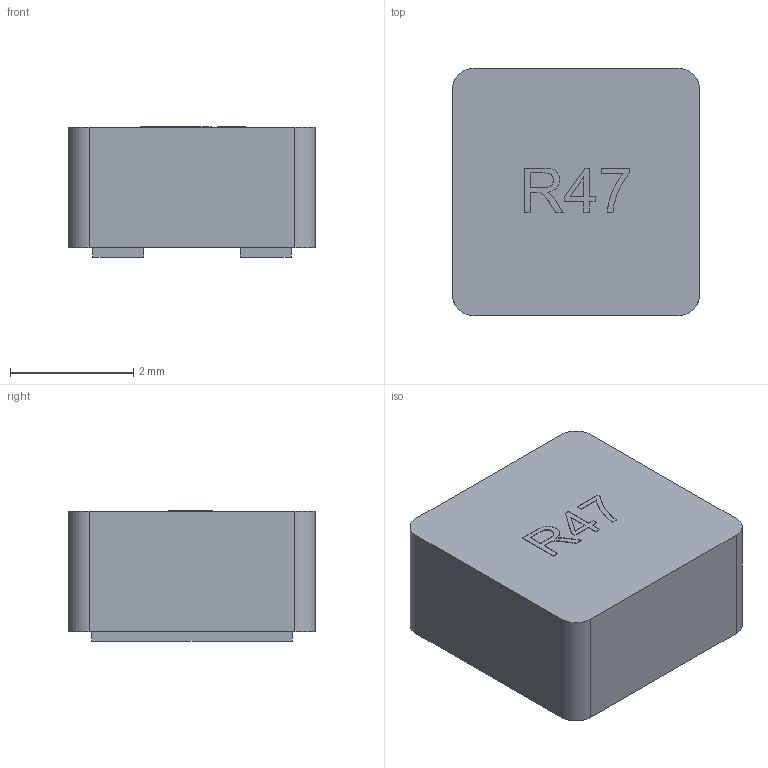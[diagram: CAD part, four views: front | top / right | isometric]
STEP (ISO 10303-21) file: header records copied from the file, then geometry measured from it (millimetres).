
FILE_DESCRIPTION(('Open CASCADE Model'),'2;1');
FILE_NAME('Open CASCADE Shape Model','2026-10-09T18:49:10',('Author'),( 'Open CASCADE'),'Open CASCADE STEP processor 7.9','Open CASCADE 7.9' ,'Unknown');
FILE_SCHEMA(('AUTOMOTIVE_DESIGN { 1 0 10303 214 1 1 1 1 }'));
Length unit declared in the file: millimetre
Products named in the file (5): Coilcraft_XGL4020; ferrite; terminal0; terminal1; mark_3
Assembly tree (4 placements, depth 2):
  Coilcraft_XGL4020
    ferrite
    terminal0
    terminal1
    mark_3
Bounding box: 4 x 4 x 2.11 mm (x, y, z)
Volume: 32.2 mm3; surface area: 77.1 mm2
Topology: 6 solids, 6 shells, 80 faces, 204 edges, 136 vertices
Faces by surface type: plane 54, extrusion 22, cylinder 4
Entity records: 5213 total; most frequent: CARTESIAN_POINT 1077, DIRECTION 676, VECTOR 530, LINE 508, ORIENTED_EDGE 408, PCURVE 408, DEFINITIONAL_REPRESENTATION 408, EDGE_CURVE 204
